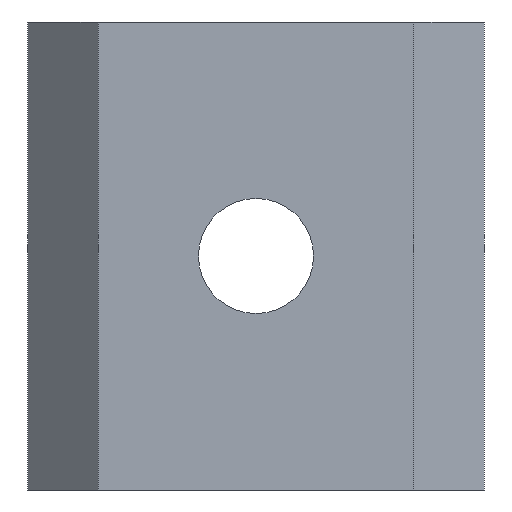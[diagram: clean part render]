
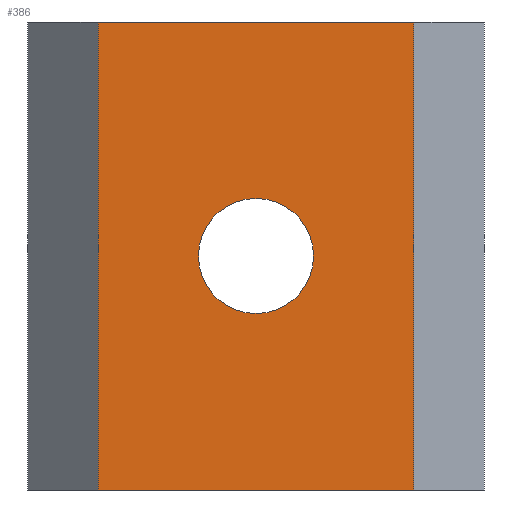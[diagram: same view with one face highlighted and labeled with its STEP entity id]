
A CAD part, front view. The second image highlights one B-rep face of the part: STEP entity #386.
In plain terms, the highlighted planar face has unit normal (0, -1, 0).
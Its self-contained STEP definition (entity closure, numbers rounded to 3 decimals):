
#145=CARTESIAN_POINT('',(12.209,0.0,-10.0));
#146=VERTEX_POINT('',#145);
#147=CARTESIAN_POINT('',(9.75,0.0,-10.0));
#148=DIRECTION('',(0.0,1.0,0.0));
#149=DIRECTION('',(1.0,0.0,0.0));
#150=AXIS2_PLACEMENT_3D('',#147,#148,#149);
#151=CIRCLE('',#150,2.459);
#152=EDGE_CURVE('',#146,#146,#151,.T.);
#318=CARTESIAN_POINT('',(16.5,0.0,-20.0));
#319=VERTEX_POINT('',#318);
#336=CARTESIAN_POINT('',(16.5,0.0,0.0));
#337=VERTEX_POINT('',#336);
#344=CARTESIAN_POINT('',(16.5,0.0,0.0));
#345=DIRECTION('',(0.0,0.0,-1.0));
#346=VECTOR('',#345,20.0);
#347=LINE('',#344,#346);
#348=EDGE_CURVE('',#337,#319,#347,.T.);
#353=CARTESIAN_POINT('',(0.0,0.0,0.0));
#354=DIRECTION('',(0.0,-1.0,0.0));
#355=DIRECTION('',(0.0,0.0,-1.0));
#356=AXIS2_PLACEMENT_3D('',#353,#354,#355);
#357=PLANE('',#356);
#358=ORIENTED_EDGE('',*,*,#348,.F.);
#359=CARTESIAN_POINT('',(3.,0.0,0.0));
#360=VERTEX_POINT('',#359);
#361=CARTESIAN_POINT('',(3.,0.0,0.0));
#362=DIRECTION('',(1.0,0.0,0.0));
#363=VECTOR('',#362,13.5);
#364=LINE('',#361,#363);
#365=EDGE_CURVE('',#360,#337,#364,.T.);
#366=ORIENTED_EDGE('',*,*,#365,.F.);
#367=CARTESIAN_POINT('',(3.,0.0,-20.0));
#368=VERTEX_POINT('',#367);
#369=CARTESIAN_POINT('',(3.,0.0,-20.0));
#370=DIRECTION('',(0.0,0.0,1.0));
#371=VECTOR('',#370,20.0);
#372=LINE('',#369,#371);
#373=EDGE_CURVE('',#368,#360,#372,.T.);
#374=ORIENTED_EDGE('',*,*,#373,.F.);
#375=CARTESIAN_POINT('',(3.,0.0,-20.0));
#376=DIRECTION('',(1.0,0.0,0.0));
#377=VECTOR('',#376,13.5);
#378=LINE('',#375,#377);
#379=EDGE_CURVE('',#368,#319,#378,.T.);
#380=ORIENTED_EDGE('',*,*,#379,.T.);
#381=EDGE_LOOP('',(#358,#366,#374,#380));
#382=FACE_OUTER_BOUND('',#381,.T.);
#383=ORIENTED_EDGE('',*,*,#152,.T.);
#384=EDGE_LOOP('',(#383));
#385=FACE_BOUND('',#384,.T.);
#386=ADVANCED_FACE('',(#382,#385),#357,.T.);
